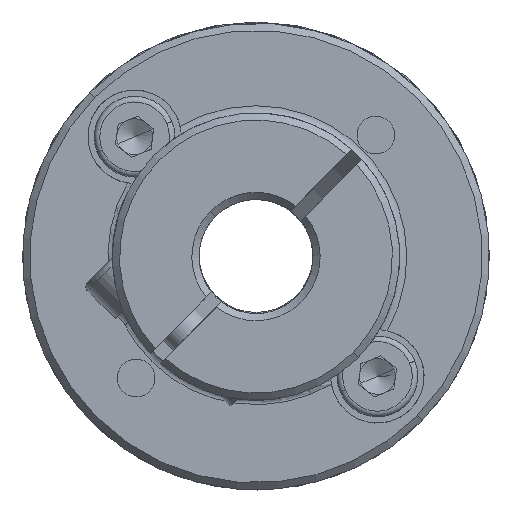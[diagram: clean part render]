
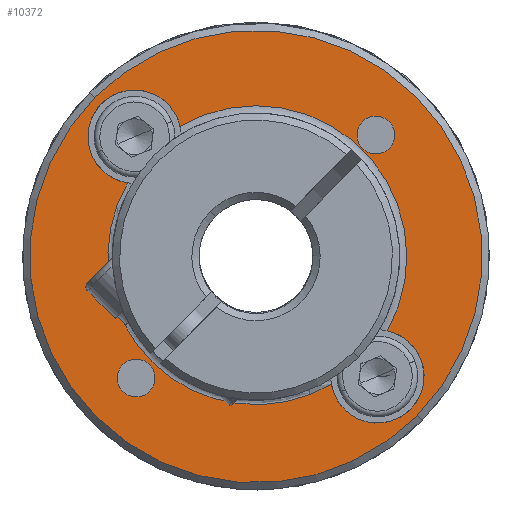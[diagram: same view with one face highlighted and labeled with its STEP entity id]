
A CAD part, front view. The second image highlights one B-rep face of the part: STEP entity #10372.
In plain terms, the highlighted planar face has unit normal (0, -1, 0).
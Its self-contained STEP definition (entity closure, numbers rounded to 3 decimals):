
#1 = VERTEX_POINT ( 'NONE', #18044 ) ;
#328 = CIRCLE ( 'NONE', #11406, 8.4 ) ;
#563 = EDGE_CURVE ( 'NONE', #10443, #14700, #10577, .T. ) ;
#701 = AXIS2_PLACEMENT_3D ( 'NONE', #1348, #10491, #15149 ) ;
#718 = EDGE_CURVE ( 'NONE', #8095, #17490, #12679, .T. ) ;
#952 = PLANE ( 'NONE',  #12742 ) ;
#971 = DIRECTION ( 'NONE',  ( 0., 1., 0. ) ) ;
#1187 = ORIENTED_EDGE ( 'NONE', *, *, #14446, .T. ) ;
#1233 = ORIENTED_EDGE ( 'NONE', *, *, #2908, .T. ) ;
#1348 = CARTESIAN_POINT ( 'NONE',  ( -4.076, -18.979, 25.938 ) ) ;
#1374 = DIRECTION ( 'NONE',  ( -0.712, 0., 0.702 ) ) ;
#1544 = DIRECTION ( 'NONE',  ( 0., 1., 0. ) ) ;
#1653 = CARTESIAN_POINT ( 'NONE',  ( 4.892, -18.979, 17.087 ) ) ;
#2161 = DIRECTION ( 'NONE',  ( 0., 1., 0. ) ) ;
#2171 = DIRECTION ( 'NONE',  ( -0.712, 0., 0.702 ) ) ;
#2182 = EDGE_LOOP ( 'NONE', ( #8178, #14192 ) ) ;
#2536 = DIRECTION ( 'NONE',  ( -0.712, 0., 0.702 ) ) ;
#2594 = VERTEX_POINT ( 'NONE', #9122 ) ;
#2908 = EDGE_CURVE ( 'NONE', #2594, #8095, #14171, .T. ) ;
#3320 = ORIENTED_EDGE ( 'NONE', *, *, #718, .T. ) ;
#3609 = CARTESIAN_POINT ( 'NONE',  ( -4.076, -18.979, 25.938 ) ) ;
#3977 = AXIS2_PLACEMENT_3D ( 'NONE', #12177, #7973, #13948 ) ;
#4653 = ORIENTED_EDGE ( 'NONE', *, *, #6146, .T. ) ;
#4721 = ORIENTED_EDGE ( 'NONE', *, *, #11061, .T. ) ;
#4815 = CIRCLE ( 'NONE', #18116, 8.247 ) ;
#4894 = DIRECTION ( 'NONE',  ( -0.712, 0., 0.702 ) ) ;
#4944 = DIRECTION ( 'NONE',  ( -0.712, 0., 0.702 ) ) ;
#5393 = VERTEX_POINT ( 'NONE', #11190 ) ;
#5609 = DIRECTION ( 'NONE',  ( 0., 1., 0. ) ) ;
#5754 = CARTESIAN_POINT ( 'NONE',  ( 2.598, -18.979, 32.699 ) ) ;
#6146 = EDGE_CURVE ( 'NONE', #11056, #6148, #11267, .T. ) ;
#6148 = VERTEX_POINT ( 'NONE', #13452 ) ;
#6173 = EDGE_CURVE ( 'NONE', #5393, #11250, #15034, .T. ) ;
#6405 = EDGE_LOOP ( 'NONE', ( #14052, #11500, #19411, #1233, #3320, #1187 ) ) ;
#6827 = VERTEX_POINT ( 'NONE', #10452 ) ;
#7412 = DIRECTION ( 'NONE',  ( -0.712, 0., 0.702 ) ) ;
#7872 = EDGE_LOOP ( 'NONE', ( #4721, #17147 ) ) ;
#7973 = DIRECTION ( 'NONE',  ( 0., 1., 0. ) ) ;
#8023 = CARTESIAN_POINT ( 'NONE',  ( -10.749, -18.979, 19.176 ) ) ;
#8095 = VERTEX_POINT ( 'NONE', #18663 ) ;
#8178 = ORIENTED_EDGE ( 'NONE', *, *, #9131, .T. ) ;
#8363 = CARTESIAN_POINT ( 'NONE',  ( 2.686, -18.979, 19.264 ) ) ;
#8558 = DIRECTION ( 'NONE',  ( -0.712, 0., 0.702 ) ) ;
#9033 = CARTESIAN_POINT ( 'NONE',  ( -10.749, -18.979, 19.176 ) ) ;
#9122 = CARTESIAN_POINT ( 'NONE',  ( -11.23, -18.979, 30.041 ) ) ;
#9131 = EDGE_CURVE ( 'NONE', #14700, #10443, #17731, .T. ) ;
#9341 = CARTESIAN_POINT ( 'NONE',  ( 2.598, -18.979, 32.699 ) ) ;
#9759 = DIRECTION ( 'NONE',  ( 0., -1., 0. ) ) ;
#10059 = AXIS2_PLACEMENT_3D ( 'NONE', #9341, #17040, #4894 ) ;
#10372 = ADVANCED_FACE ( 'NONE', ( #17164, #15052, #14829, #17416 ), #952, .T. ) ;
#10443 = VERTEX_POINT ( 'NONE', #14553 ) ;
#10452 = CARTESIAN_POINT ( 'NONE',  ( 3.238, -18.979, 21.805 ) ) ;
#10455 = DIRECTION ( 'NONE',  ( 0., 1., 0. ) ) ;
#10491 = DIRECTION ( 'NONE',  ( 0., -1., 0. ) ) ;
#10577 = CIRCLE ( 'NONE', #15801, 1.05 ) ;
#10926 = EDGE_CURVE ( 'NONE', #6827, #1, #17847, .T. ) ;
#11056 = VERTEX_POINT ( 'NONE', #14926 ) ;
#11061 = EDGE_CURVE ( 'NONE', #11250, #5393, #14555, .T. ) ;
#11163 = CARTESIAN_POINT ( 'NONE',  ( -4.076, -18.979, 25.938 ) ) ;
#11190 = CARTESIAN_POINT ( 'NONE',  ( -13.043, -18.979, 34.789 ) ) ;
#11250 = VERTEX_POINT ( 'NONE', #1653 ) ;
#11261 = EDGE_CURVE ( 'NONE', #6148, #11056, #18069, .T. ) ;
#11267 = CIRCLE ( 'NONE', #19218, 1.05 ) ;
#11406 = AXIS2_PLACEMENT_3D ( 'NONE', #3609, #14174, #2171 ) ;
#11467 = CARTESIAN_POINT ( 'NONE',  ( -4.076, -18.979, 25.938 ) ) ;
#11500 = ORIENTED_EDGE ( 'NONE', *, *, #18937, .T. ) ;
#11699 = DIRECTION ( 'NONE',  ( 0., -1., 0. ) ) ;
#11723 = AXIS2_PLACEMENT_3D ( 'NONE', #8363, #5609, #8558 ) ;
#11824 = CARTESIAN_POINT ( 'NONE',  ( -10.837, -18.979, 32.611 ) ) ;
#12005 = CIRCLE ( 'NONE', #12236, 2.6 ) ;
#12177 = CARTESIAN_POINT ( 'NONE',  ( -10.837, -18.979, 32.611 ) ) ;
#12236 = AXIS2_PLACEMENT_3D ( 'NONE', #16290, #971, #19118 ) ;
#12679 = CIRCLE ( 'NONE', #3977, 2.6 ) ;
#12742 = AXIS2_PLACEMENT_3D ( 'NONE', #11467, #9759, #19028 ) ;
#12850 = EDGE_LOOP ( 'NONE', ( #14691, #4653 ) ) ;
#13048 = DIRECTION ( 'NONE',  ( 0., 1., 0. ) ) ;
#13348 = CARTESIAN_POINT ( 'NONE',  ( -4.076, -18.979, 25.938 ) ) ;
#13452 = CARTESIAN_POINT ( 'NONE',  ( -10.002, -18.979, 18.439 ) ) ;
#13628 = AXIS2_PLACEMENT_3D ( 'NONE', #13348, #11699, #17762 ) ;
#13948 = DIRECTION ( 'NONE',  ( -0.712, 0., 0.702 ) ) ;
#14052 = ORIENTED_EDGE ( 'NONE', *, *, #10926, .T. ) ;
#14103 = DIRECTION ( 'NONE',  ( -0.712, 0., 0.702 ) ) ;
#14171 = CIRCLE ( 'NONE', #16023, 2.6 ) ;
#14174 = DIRECTION ( 'NONE',  ( 0., 1., 0. ) ) ;
#14192 = ORIENTED_EDGE ( 'NONE', *, *, #563, .T. ) ;
#14258 = AXIS2_PLACEMENT_3D ( 'NONE', #8023, #15573, #4944 ) ;
#14329 = CARTESIAN_POINT ( 'NONE',  ( 0.121, -18.979, 18.838 ) ) ;
#14446 = EDGE_CURVE ( 'NONE', #17490, #6827, #328, .T. ) ;
#14553 = CARTESIAN_POINT ( 'NONE',  ( 1.85, -18.979, 33.437 ) ) ;
#14555 = CIRCLE ( 'NONE', #13628, 12.6 ) ;
#14691 = ORIENTED_EDGE ( 'NONE', *, *, #11261, .T. ) ;
#14700 = VERTEX_POINT ( 'NONE', #17788 ) ;
#14829 = FACE_BOUND ( 'NONE', #12850, .T. ) ;
#14926 = CARTESIAN_POINT ( 'NONE',  ( -11.496, -18.979, 19.914 ) ) ;
#15034 = CIRCLE ( 'NONE', #701, 12.6 ) ;
#15052 = FACE_BOUND ( 'NONE', #2182, .T. ) ;
#15149 = DIRECTION ( 'NONE',  ( -0.712, 0., 0.702 ) ) ;
#15573 = DIRECTION ( 'NONE',  ( 0., 1., 0. ) ) ;
#15801 = AXIS2_PLACEMENT_3D ( 'NONE', #5754, #13048, #2536 ) ;
#16023 = AXIS2_PLACEMENT_3D ( 'NONE', #11824, #10455, #1374 ) ;
#16242 = EDGE_CURVE ( 'NONE', #17465, #2594, #4815, .T. ) ;
#16290 = CARTESIAN_POINT ( 'NONE',  ( 2.686, -18.979, 19.264 ) ) ;
#17040 = DIRECTION ( 'NONE',  ( 0., 1., 0. ) ) ;
#17147 = ORIENTED_EDGE ( 'NONE', *, *, #6173, .T. ) ;
#17164 = FACE_OUTER_BOUND ( 'NONE', #7872, .T. ) ;
#17416 = FACE_BOUND ( 'NONE', #6405, .T. ) ;
#17465 = VERTEX_POINT ( 'NONE', #14329 ) ;
#17490 = VERTEX_POINT ( 'NONE', #17621 ) ;
#17621 = CARTESIAN_POINT ( 'NONE',  ( -8.304, -18.979, 33.196 ) ) ;
#17731 = CIRCLE ( 'NONE', #10059, 1.05 ) ;
#17762 = DIRECTION ( 'NONE',  ( -0.712, 0., 0.702 ) ) ;
#17788 = CARTESIAN_POINT ( 'NONE',  ( 3.345, -18.979, 31.962 ) ) ;
#17847 = CIRCLE ( 'NONE', #11723, 2.6 ) ;
#18044 = CARTESIAN_POINT ( 'NONE',  ( 4.536, -18.979, 17.438 ) ) ;
#18069 = CIRCLE ( 'NONE', #14258, 1.05 ) ;
#18116 = AXIS2_PLACEMENT_3D ( 'NONE', #11163, #2161, #14103 ) ;
#18663 = CARTESIAN_POINT ( 'NONE',  ( -12.688, -18.979, 34.437 ) ) ;
#18937 = EDGE_CURVE ( 'NONE', #1, #17465, #12005, .T. ) ;
#19028 = DIRECTION ( 'NONE',  ( -0.712, 0., 0.702 ) ) ;
#19118 = DIRECTION ( 'NONE',  ( -0.712, 0., 0.702 ) ) ;
#19218 = AXIS2_PLACEMENT_3D ( 'NONE', #9033, #1544, #7412 ) ;
#19411 = ORIENTED_EDGE ( 'NONE', *, *, #16242, .T. ) ;
